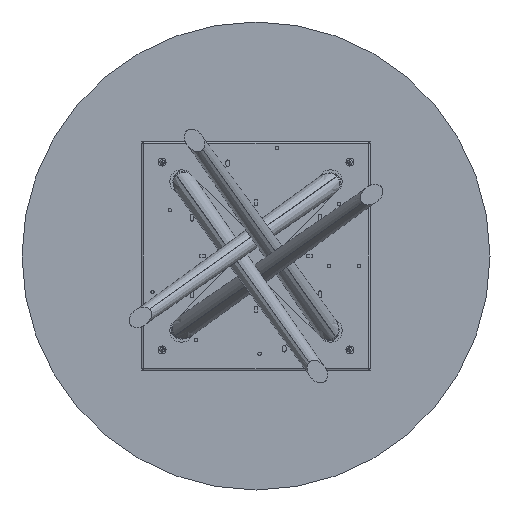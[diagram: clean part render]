
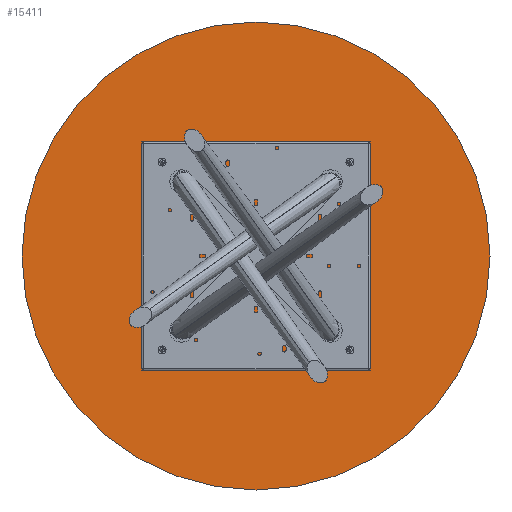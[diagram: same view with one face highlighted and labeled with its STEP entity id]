
A CAD part, front view. The second image highlights one B-rep face of the part: STEP entity #15411.
In plain terms, the highlighted planar face has unit normal (0, -1, 0).
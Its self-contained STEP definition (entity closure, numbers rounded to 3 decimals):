
#905 = DIRECTION ( 'NONE',  ( 0., -1., 0. ) ) ;
#1904 = PLANE ( 'NONE',  #13587 ) ;
#2241 = DIRECTION ( 'NONE',  ( 0., 0., -1. ) ) ;
#2260 = CARTESIAN_POINT ( 'NONE',  ( 0., 0., 0. ) ) ;
#3230 = CARTESIAN_POINT ( 'NONE',  ( 0., 0., -700. ) ) ;
#3279 = DIRECTION ( 'NONE',  ( 0., 0., -1. ) ) ;
#3699 = EDGE_CURVE ( 'NONE', #11696, #12981, #6065, .T. ) ;
#3967 = EDGE_CURVE ( 'NONE', #12981, #11696, #5439, .T. ) ;
#5439 = CIRCLE ( 'NONE', #14793, 700. ) ;
#5526 = DIRECTION ( 'NONE',  ( 0., 0., -1. ) ) ;
#6029 = CARTESIAN_POINT ( 'NONE',  ( 0., 0., 0. ) ) ;
#6065 = CIRCLE ( 'NONE', #13450, 700. ) ;
#6695 = DIRECTION ( 'NONE',  ( 0., -1., 0. ) ) ;
#7830 = ORIENTED_EDGE ( 'NONE', *, *, #3967, .T. ) ;
#11229 = DIRECTION ( 'NONE',  ( 0., -1., 0. ) ) ;
#11696 = VERTEX_POINT ( 'NONE', #13271 ) ;
#12981 = VERTEX_POINT ( 'NONE', #3230 ) ;
#13271 = CARTESIAN_POINT ( 'NONE',  ( 0., 0., 700. ) ) ;
#13450 = AXIS2_PLACEMENT_3D ( 'NONE', #2260, #11229, #3279 ) ;
#13537 = EDGE_LOOP ( 'NONE', ( #7830, #14142 ) ) ;
#13587 = AXIS2_PLACEMENT_3D ( 'NONE', #6029, #905, #2241 ) ;
#14142 = ORIENTED_EDGE ( 'NONE', *, *, #3699, .T. ) ;
#14793 = AXIS2_PLACEMENT_3D ( 'NONE', #15893, #6695, #5526 ) ;
#15065 = FACE_OUTER_BOUND ( 'NONE', #13537, .T. ) ;
#15411 = ADVANCED_FACE ( 'NONE', ( #15065 ), #1904, .T. ) ;
#15893 = CARTESIAN_POINT ( 'NONE',  ( 0., 0., 0. ) ) ;
